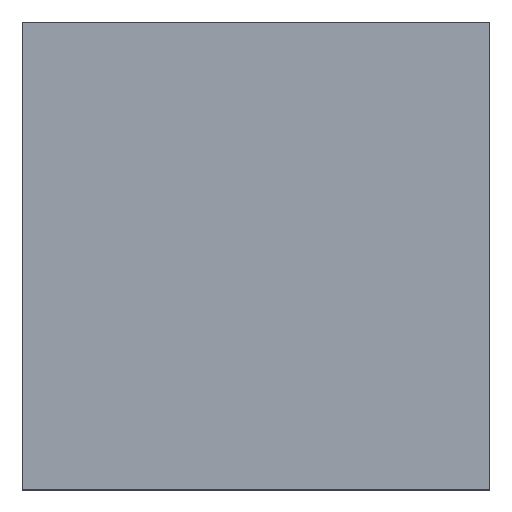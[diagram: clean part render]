
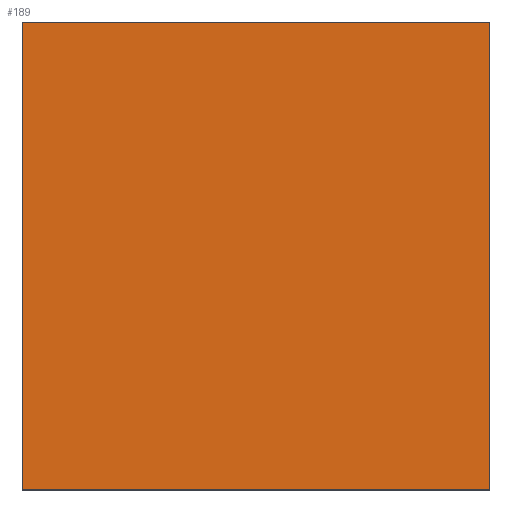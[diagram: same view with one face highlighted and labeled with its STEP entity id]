
A CAD part, top view. The second image highlights one B-rep face of the part: STEP entity #189.
In plain terms, the highlighted planar face has unit normal (0, 0, 1).
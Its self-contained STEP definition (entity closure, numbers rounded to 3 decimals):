
#1 = VECTOR ( 'NONE', #192, 1000. ) ;
#6 = EDGE_CURVE ( 'NONE', #73, #224, #202, .T. ) ;
#15 = DIRECTION ( 'NONE',  ( 0., 1., 0. ) ) ;
#17 = DIRECTION ( 'NONE',  ( 1., 0., 0. ) ) ;
#18 = ORIENTED_EDGE ( 'NONE', *, *, #229, .T. ) ;
#24 = CARTESIAN_POINT ( 'NONE',  ( 0., 0., 7. ) ) ;
#25 = CARTESIAN_POINT ( 'NONE',  ( -107., 107., 7. ) ) ;
#35 = CARTESIAN_POINT ( 'NONE',  ( -107., -107., 7. ) ) ;
#48 = EDGE_CURVE ( 'NONE', #182, #146, #113, .T. ) ;
#64 = LINE ( 'NONE', #121, #1 ) ;
#65 = VECTOR ( 'NONE', #17, 1000. ) ;
#73 = VERTEX_POINT ( 'NONE', #97 ) ;
#95 = ORIENTED_EDGE ( 'NONE', *, *, #139, .F. ) ;
#97 = CARTESIAN_POINT ( 'NONE',  ( -107., -107., 7. ) ) ;
#113 = LINE ( 'NONE', #201, #169 ) ;
#115 = CARTESIAN_POINT ( 'NONE',  ( 107., 107., 7. ) ) ;
#121 = CARTESIAN_POINT ( 'NONE',  ( -107., -107., 7. ) ) ;
#122 = CARTESIAN_POINT ( 'NONE',  ( 107., -107., 7. ) ) ;
#132 = EDGE_LOOP ( 'NONE', ( #183, #18, #184, #95 ) ) ;
#135 = LINE ( 'NONE', #204, #65 ) ;
#138 = DIRECTION ( 'NONE',  ( -1., 0., 0. ) ) ;
#139 = EDGE_CURVE ( 'NONE', #224, #146, #135, .T. ) ;
#140 = DIRECTION ( 'NONE',  ( 0., 0., -1. ) ) ;
#146 = VERTEX_POINT ( 'NONE', #115 ) ;
#169 = VECTOR ( 'NONE', #15, 1000. ) ;
#173 = PLANE ( 'NONE',  #177 ) ;
#177 = AXIS2_PLACEMENT_3D ( 'NONE', #24, #140, #138 ) ;
#182 = VERTEX_POINT ( 'NONE', #122 ) ;
#183 = ORIENTED_EDGE ( 'NONE', *, *, #6, .F. ) ;
#184 = ORIENTED_EDGE ( 'NONE', *, *, #48, .T. ) ;
#186 = VECTOR ( 'NONE', #223, 1000. ) ;
#189 = ADVANCED_FACE ( 'NONE', ( #191 ), #173, .F. ) ;
#191 = FACE_OUTER_BOUND ( 'NONE', #132, .T. ) ;
#192 = DIRECTION ( 'NONE',  ( 1., 0., 0. ) ) ;
#201 = CARTESIAN_POINT ( 'NONE',  ( 107., -107., 7. ) ) ;
#202 = LINE ( 'NONE', #35, #186 ) ;
#204 = CARTESIAN_POINT ( 'NONE',  ( -107., 107., 7. ) ) ;
#223 = DIRECTION ( 'NONE',  ( 0., 1., 0. ) ) ;
#224 = VERTEX_POINT ( 'NONE', #25 ) ;
#229 = EDGE_CURVE ( 'NONE', #73, #182, #64, .T. ) ;
